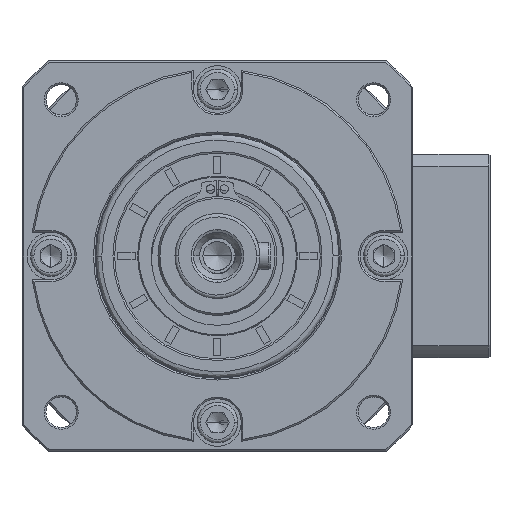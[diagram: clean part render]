
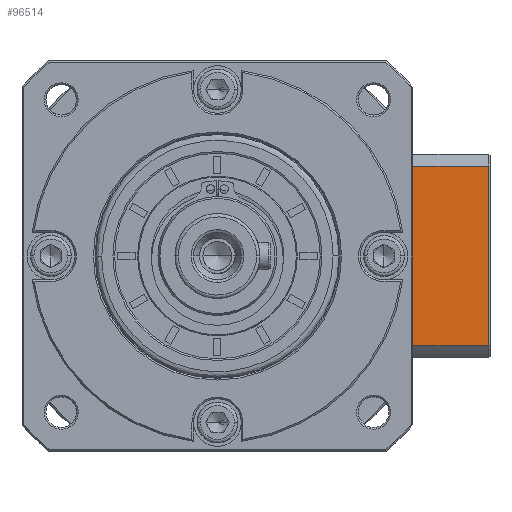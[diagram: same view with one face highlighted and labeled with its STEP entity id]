
A CAD part, left-side view. The second image highlights one B-rep face of the part: STEP entity #96514.
In plain terms, the highlighted planar face has unit normal (-1, 0, 0).
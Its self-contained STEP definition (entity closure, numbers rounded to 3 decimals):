
#2950 = ORIENTED_EDGE ( 'NONE', *, *, #57623, .F. ) ;
#3483 = VECTOR ( 'NONE', #41448, 1000. ) ;
#3993 = VECTOR ( 'NONE', #188516, 1000. ) ;
#4241 = CARTESIAN_POINT ( 'NONE',  ( 21.875, 63.595, 21.353 ) ) ;
#4310 = VECTOR ( 'NONE', #153035, 1000. ) ;
#5345 = CARTESIAN_POINT ( 'NONE',  ( 21.875, 85.795, 21.353 ) ) ;
#6035 = CARTESIAN_POINT ( 'NONE',  ( 21.875, 90.047, 14.375 ) ) ;
#9735 = ORIENTED_EDGE ( 'NONE', *, *, #37594, .T. ) ;
#11489 = B_SPLINE_CURVE_WITH_KNOTS ( 'NONE', 3,
 ( #144807, #67791, #162458, #178400, #83660, #194234 ),
 .UNSPECIFIED., .F., .F.,
 ( 4, 2, 4 ),
 ( 0.1, 0.104, 0.109 ),
 .UNSPECIFIED. ) ;
#29550 = ORIENTED_EDGE ( 'NONE', *, *, #34599, .F. ) ;
#30728 = FACE_OUTER_BOUND ( 'NONE', #126188, .T. ) ;
#30790 = EDGE_CURVE ( 'NONE', #153065, #110058, #116670, .T. ) ;
#34599 = EDGE_CURVE ( 'NONE', #37239, #193080, #51363, .T. ) ;
#35575 = VERTEX_POINT ( 'NONE', #37888 ) ;
#37239 = VERTEX_POINT ( 'NONE', #120053 ) ;
#37594 = EDGE_CURVE ( 'NONE', #201056, #110058, #11489, .T. ) ;
#37888 = CARTESIAN_POINT ( 'NONE',  ( 21.875, 90.795, 12.923 ) ) ;
#39014 = VECTOR ( 'NONE', #59649, 1000. ) ;
#41448 = DIRECTION ( 'NONE',  ( 0., -1., 0. ) ) ;
#43745 = CARTESIAN_POINT ( 'NONE',  ( 21.875, 63.595, -35.105 ) ) ;
#43998 = LINE ( 'NONE', #43745, #39014 ) ;
#45782 = VERTEX_POINT ( 'NONE', #176161 ) ;
#46134 = LINE ( 'NONE', #46184, #3993 ) ;
#46184 = CARTESIAN_POINT ( 'NONE',  ( 21.875, 90.795, -23.133 ) ) ;
#49027 = EDGE_CURVE ( 'NONE', #153065, #193080, #43998, .T. ) ;
#49832 = B_SPLINE_CURVE_WITH_KNOTS ( 'NONE', 3,
 ( #5345, #100129, #195473, #100833, #6035, #116707 ),
 .UNSPECIFIED., .F., .F.,
 ( 4, 2, 4 ),
 ( 0.052, 0.057, 0.062 ),
 .UNSPECIFIED. ) ;
#50743 = CARTESIAN_POINT ( 'NONE',  ( 21.875, 63.595, -31.562 ) ) ;
#51363 = LINE ( 'NONE', #137212, #4310 ) ;
#53170 = CARTESIAN_POINT ( 'NONE',  ( 21.875, 90.795, -23.133 ) ) ;
#57623 = EDGE_CURVE ( 'NONE', #45782, #35575, #171745, .T. ) ;
#59649 = DIRECTION ( 'NONE',  ( 0., 0., 1. ) ) ;
#60673 = EDGE_CURVE ( 'NONE', #37239, #35575, #49832, .T. ) ;
#65970 = CARTESIAN_POINT ( 'NONE',  ( 21.875, 63.095, -35.105 ) ) ;
#67791 = CARTESIAN_POINT ( 'NONE',  ( 21.875, 90.045, -24.589 ) ) ;
#81862 = DIRECTION ( 'NONE',  ( 0., 1., 0. ) ) ;
#83660 = CARTESIAN_POINT ( 'NONE',  ( 21.875, 86.697, -30.2 ) ) ;
#83693 = EDGE_CURVE ( 'NONE', #45782, #154375, #109478, .T. ) ;
#88465 = CARTESIAN_POINT ( 'NONE',  ( 21.875, 90.795, 12.923 ) ) ;
#88503 = EDGE_CURVE ( 'NONE', #201056, #154375, #46134, .T. ) ;
#91525 = ORIENTED_EDGE ( 'NONE', *, *, #83693, .T. ) ;
#95208 = DIRECTION ( 'NONE',  ( 0., 0., -1. ) ) ;
#96514 = ADVANCED_FACE ( 'NONE', ( #30728 ), #175881, .F. ) ;
#100129 = CARTESIAN_POINT ( 'NONE',  ( 21.875, 86.695, 19.993 ) ) ;
#100833 = CARTESIAN_POINT ( 'NONE',  ( 21.875, 89.244, 15.806 ) ) ;
#102868 = ORIENTED_EDGE ( 'NONE', *, *, #88503, .F. ) ;
#109478 = LINE ( 'NONE', #117720, #193487 ) ;
#110058 = VERTEX_POINT ( 'NONE', #117363 ) ;
#115238 = CARTESIAN_POINT ( 'NONE',  ( 21.875, 105.295, -23.133 ) ) ;
#116670 = LINE ( 'NONE', #170543, #200742 ) ;
#116707 = CARTESIAN_POINT ( 'NONE',  ( 21.875, 90.795, 12.923 ) ) ;
#117363 = CARTESIAN_POINT ( 'NONE',  ( 21.875, 85.795, -31.562 ) ) ;
#117720 = CARTESIAN_POINT ( 'NONE',  ( 21.875, 105.295, -35.105 ) ) ;
#118258 = AXIS2_PLACEMENT_3D ( 'NONE', #65970, #176579, #81862 ) ;
#120053 = CARTESIAN_POINT ( 'NONE',  ( 21.875, 85.795, 21.353 ) ) ;
#126188 = EDGE_LOOP ( 'NONE', ( #151391, #189762, #29550, #155463, #2950, #91525, #102868, #9735 ) ) ;
#137212 = CARTESIAN_POINT ( 'NONE',  ( 21.875, 90.795, 21.353 ) ) ;
#144807 = CARTESIAN_POINT ( 'NONE',  ( 21.875, 90.795, -23.133 ) ) ;
#151391 = ORIENTED_EDGE ( 'NONE', *, *, #30790, .F. ) ;
#153035 = DIRECTION ( 'NONE',  ( 0., -1., 0. ) ) ;
#153065 = VERTEX_POINT ( 'NONE', #50743 ) ;
#154375 = VERTEX_POINT ( 'NONE', #115238 ) ;
#155463 = ORIENTED_EDGE ( 'NONE', *, *, #60673, .T. ) ;
#162458 = CARTESIAN_POINT ( 'NONE',  ( 21.875, 89.245, -26.014 ) ) ;
#170543 = CARTESIAN_POINT ( 'NONE',  ( 21.875, 90.795, -31.562 ) ) ;
#171745 = LINE ( 'NONE', #88465, #3483 ) ;
#175881 = PLANE ( 'NONE',  #118258 ) ;
#176161 = CARTESIAN_POINT ( 'NONE',  ( 21.875, 105.295, 12.923 ) ) ;
#176579 = DIRECTION ( 'NONE',  ( 1., 0., 0. ) ) ;
#178400 = CARTESIAN_POINT ( 'NONE',  ( 21.875, 87.57, -28.82 ) ) ;
#186441 = DIRECTION ( 'NONE',  ( 0., 1., 0. ) ) ;
#188516 = DIRECTION ( 'NONE',  ( 0., 1., 0. ) ) ;
#189762 = ORIENTED_EDGE ( 'NONE', *, *, #49027, .T. ) ;
#193080 = VERTEX_POINT ( 'NONE', #4241 ) ;
#193487 = VECTOR ( 'NONE', #95208, 1000. ) ;
#194234 = CARTESIAN_POINT ( 'NONE',  ( 21.875, 85.795, -31.562 ) ) ;
#195473 = CARTESIAN_POINT ( 'NONE',  ( 21.875, 87.568, 18.614 ) ) ;
#200742 = VECTOR ( 'NONE', #186441, 1000. ) ;
#201056 = VERTEX_POINT ( 'NONE', #53170 ) ;
